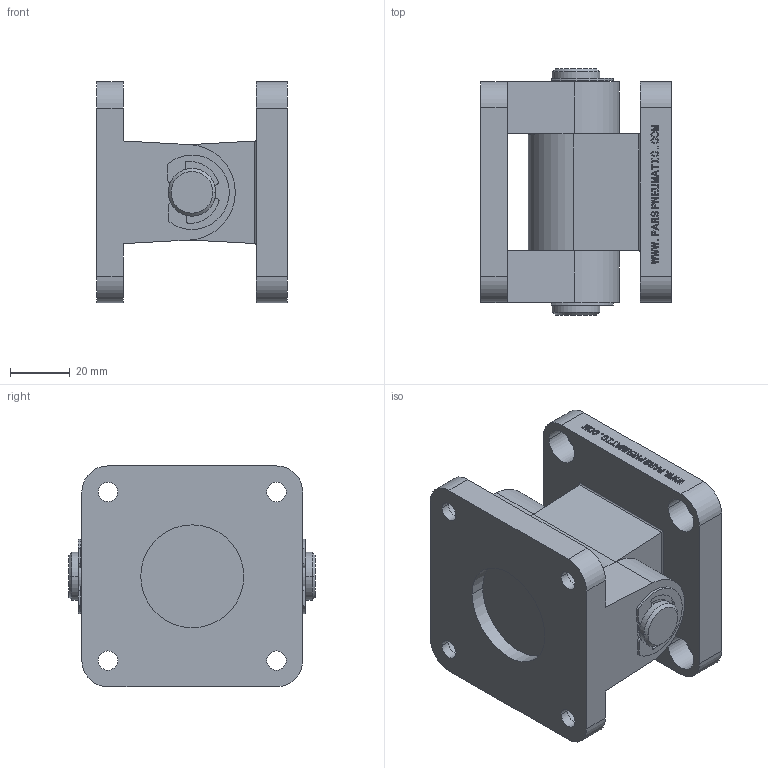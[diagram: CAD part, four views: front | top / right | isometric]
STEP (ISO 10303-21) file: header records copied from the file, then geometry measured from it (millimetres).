
FILE_DESCRIPTION(('CATIA V5 STEP Exchange'),'2;1');
FILE_NAME('D:\stp file for catalog\BAST-CAB\CAB 63.stp','2018-06-13T06:13:32+00:00',('none'),('none'),'CATIA Version 5-6 Release 2016','CATIA V5 STEP AP203','none');
FILE_SCHEMA(('CONFIG_CONTROL_DESIGN'));
Length unit declared in the file: millimetre
Products named in the file (1): PNC-CAB 63
Assembly tree (6 placements, depth 2):
  PNC-CAB 63
    #57
    #14266
    #15547
    #15570
    #16039
    #16793
Bounding box: 64 x 82.5 x 74.2 mm (x, y, z)
Volume: 175434.4 mm3; surface area: 49373.1 mm2
Topology: 5 solids, 5 shells, 583 faces, 1589 edges, 1058 vertices
Faces by surface type: plane 484, cylinder 95, cone 4
Entity records: 17524 total; most frequent: ORIENTED_EDGE 3178, CARTESIAN_POINT 3131, DIRECTION 2485, EDGE_CURVE 1589, VECTOR 1395, LINE 1395, VERTEX_POINT 1058, EDGE_LOOP 647
